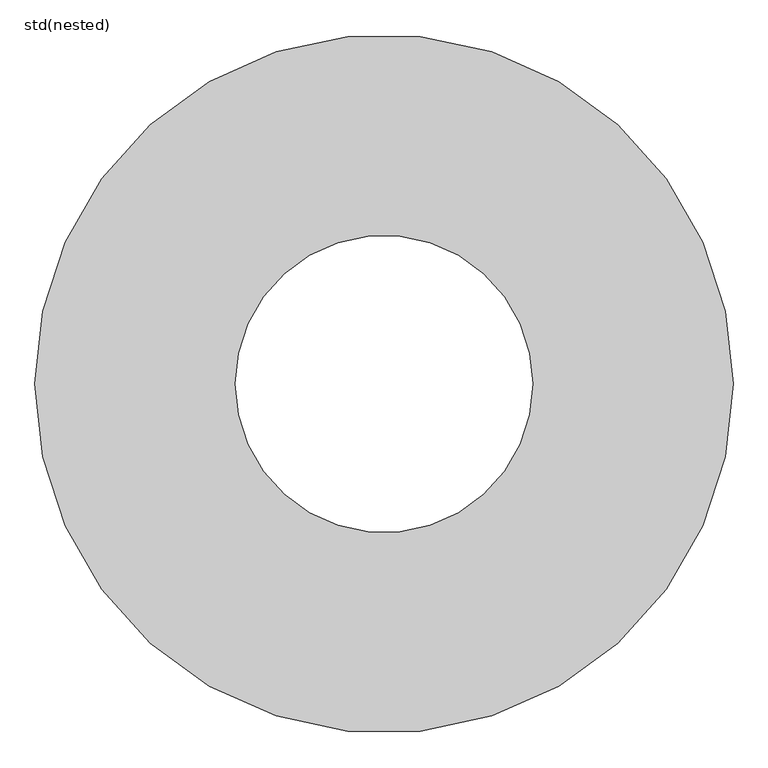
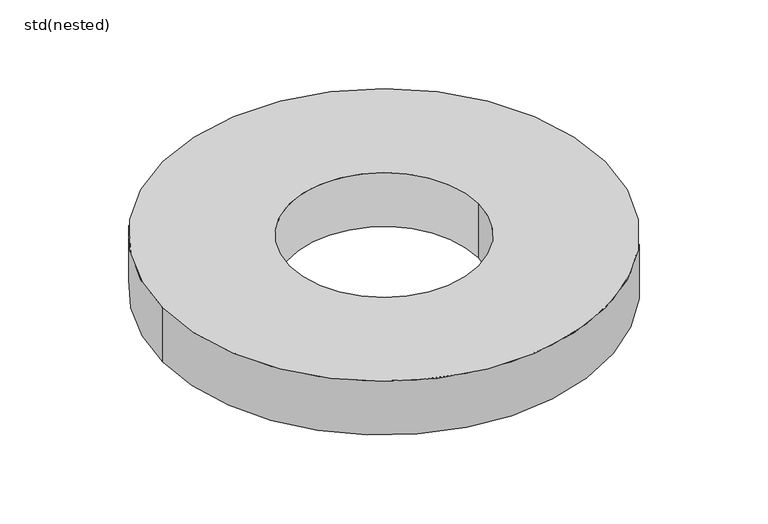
"""IFC4 building model written with IfcOpenShell, lengths in millimetres: unitary equipment geometry, ZZZ_do not use_ME_ST_WPB_load distribution plate D400_ACO : std(nested)."""

from ifc_helpers import new_model, si_unit, point, frame, origin, origin_2d, place, context, project, spatial, circle_curve, trimmed, segment, composite_curve, outline, extrude, source, transform, mapped, element, save


def std_nested_5be599bc(model_context):
    return source(origin(), model_context, "Body", "SweptSolid", [
        extrude(outline(composite_curve([segment(trimmed(circle_curve(origin_2d(), 775.0), [point((-775.0, 0.0))], [point((775.0, 0.0))], False, "CARTESIAN"), True, "CONTINUOUS"), segment(trimmed(circle_curve(origin_2d(), 775.0), [point((775.0, 0.0))], [point((-775.0, 0.0))], False, "CARTESIAN"), True, "CONTINUOUS")], self_intersect=False), holes=[composite_curve([segment(trimmed(circle_curve(origin_2d(), 330.0), [point((-330.0, 0.0))], [point((330.0, 0.0))], True, "CARTESIAN"), True, "CONTINUOUS"), segment(trimmed(circle_curve(origin_2d(), 330.0), [point((330.0, 0.0))], [point((-330.0, 0.0))], True, "CARTESIAN"), True, "CONTINUOUS")], self_intersect=False)]), frame((0.0, 0.0, -200.0), z_axis=(0.0, 0.0, 1.0), x_axis=(1.0, 0.0, 0.0)), (0.0, 0.0, 1.0), 200.0),
    ])


if __name__ == "__main__":
    model = new_model("IFC4")
    model_context = context("Model", 3, world=origin())
    ifc_project = project(units=[si_unit("LENGTHUNIT", "METRE", prefix="MILLI")], contexts=[model_context])
    site = spatial("IfcSite", under=ifc_project)
    building = spatial("IfcBuilding", under=site)
    placement = place(None, origin())
    std_nested_shape = std_nested_5be599bc(model_context)
    element("IfcUnitaryEquipment", 1, ObjectType="ZZZ_do not use_ME_ST_WPB_load distribution plate D400_ACO : std(nested)", at=placement, inside=building, context=model_context, shape_type="MappedRepresentation", body=[
        mapped(std_nested_shape, transform((0.0, 0.0, 0.0), x_axis=(1.0, 0.0, 0.0), y_axis=(0.0, 1.0, 0.0), z_axis=(0.0, 0.0, 1.0))),
    ])
    save(model, "model.ifc")
